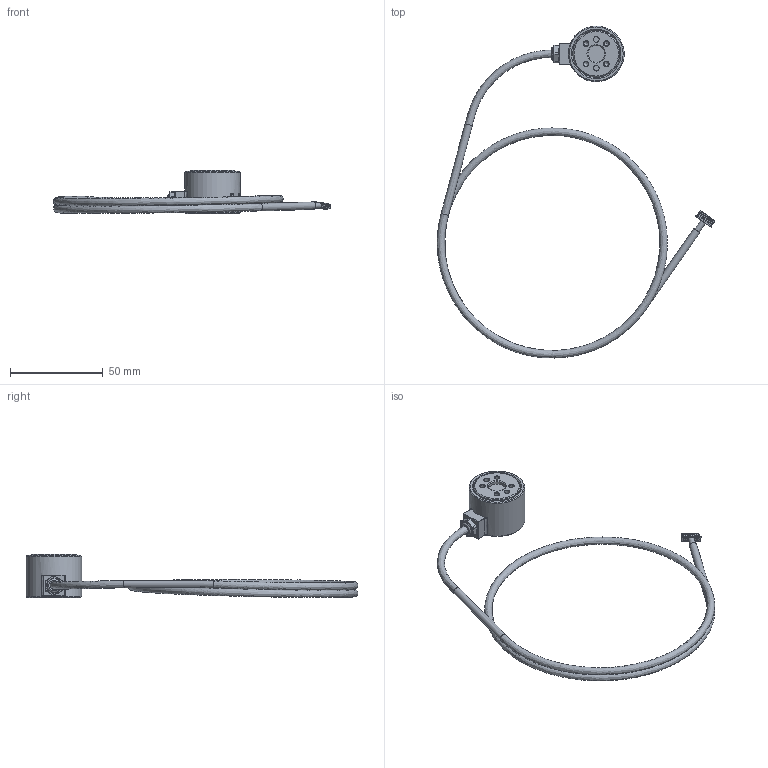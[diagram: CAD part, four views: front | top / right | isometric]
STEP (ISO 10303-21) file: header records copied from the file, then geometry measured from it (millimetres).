
FILE_DESCRIPTION (( 'STEP AP214' ), '1' );
FILE_NAME ('MiniONE Gen A UART 3D File.STEP', '2025-05-21T15:24:25', ( '' ), ( '' ), 'SwSTEP 2.0', 'SolidWorks 2022', '' );
FILE_SCHEMA (( 'AUTOMOTIVE_DESIGN' ));
Length unit declared in the file: millimetre
Products named in the file (50): FP-C0402-BB-MFG_CMP-2008-03079-2; QFN-32_5x5_P05_EPAD_3D65x3D65_AD7124-8_Sigma_Delta_ADC_8-Channel_24-Bit-1; RESC1005X40X25NL05T10_CMP-2002-06609-1; RigidPart_Layer Stack Region 1_Force_Sensor_Stud-V2; FP-RT0402-MFG_CMP-2002-02575-2; APA1606MGC_CMP-007-00044-2; MIN-A001_SENSING-ELEMENT; SOT323-5_MIC5253-3.3BC5_LDO-1; RigidPart_Layer Stack Region 7_Force_Sensor_Stud-V2; PAR-00009_PRT-ORING-23x1-NBR-50; MiniONE UART GEN-A CLAMP_MANUFACTURING; RESC1005X40X25LL10T10_CMP-2002-05747-1; CAPC0603X33X15LL03T05_CMP-2010-00183-1; DIN 912 M2.5 x 12 --- 12S-A2-70-NT_DIN 912 M2.5 x 12 --- 12S-A2-70-NT; MIN-P001_for 0.5mm extra sensing element; RESC1005X40X25LL05T05_CMP-2002-01154-4; ISO 8734 - 1 x 8 - C1-m6-S-HR_ISO 8734 - 1 x 8 - C1-m6-S-HR; FlexPart_Layer Stack Region 6_Force_Sensor_Stud-V2; RigidPart_Layer Stack Region 3_Force_Sensor_Stud-V2; MiniONE Gen A UART 3D File; MiniPad-v2_BOARD; PAR-00006_PRT-LIGHTPIPE-IP68; MEC-SCREW-M1.6-DIN_84_CMP-023-000002-6; FlexPart_Layer Stack Region 2_Force_Sensor_Stud-V2; QFN-32_5x5_P05_EPAD_3D65x3D65_ATSAMD21E18A-MU_Cortex_M0-1; MIN-A004_UART; FlexPart_Main Board to Board Flex_Force_Sensor_Stud-V2; RESC1005X40X25ML05T10_CMP-2002-07889-1; APA1606MGC_CMP-007-00039-2; BCM-000_SG-SHEAR-FB; FlexPart_Layer Stack Region 4_Force_Sensor_Stud-V2; Cable^MIN-A004_MiniONE UART; RigidPart_Default Layer Stack Region_Force_Sensor_Stud-V2; ISO-7045-M1.6x6-Z-6-A2-70-NT_PreviewCfg; FP-C1005-050-0_05-IPC_A_CMP-08246-006242-1; Oring MiniONE UART Gland_MANUFACTURING; RESC1005X40X25NL05T05_CMP-2002-00601-1; CAPC0603X33X15LL03T05_CMP-1033-00661-2; RESC0603X28X15NL05T05_CMP-2004-00629-1; BCM-001_SG-SHEAR-HB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
Assembly tree (14 placements, depth 3):
  FP-C0402-BB-MFG_CMP-2008-03079-2
  QFN-32_5x5_P05_EPAD_3D65x3D65_AD7124-8_Sigma_Delta_ADC_8-Channel_24-Bit-1
  RESC1005X40X25NL05T10_CMP-2002-06609-1
  RigidPart_Layer Stack Region 1_Force_Sensor_Stud-V2
  FP-RT0402-MFG_CMP-2002-02575-2
Bounding box: 149.54 x 178.95 x 23.2 mm (x, y, z)
Volume: 17668.9 mm3; surface area: 17572.3 mm2
Topology: 12 solids, 12 shells, 661 faces, 1631 edges, 1023 vertices
Faces by surface type: plane 473, cone 75, cylinder 73, bspline 26, torus 12, sphere 2
Full cylindrical faces by diameter (mm): 1.5 x4, 1.6 x2, 2.2 x4, 2.5 x7, 3 x5, 3.25 x1, 3.7 x1, 3.75 x1, 4 x1, 4.5 x3, 5 x1, 5.2 x3, 6.5 x1, 7 x3, 9 x1, 23.33 x1, 25 x2, 25.67 x1, 30 x1
Entity records: 22448 total; most frequent: CARTESIAN_POINT 6528, ORIENTED_EDGE 3004, DIRECTION 2978, EDGE_CURVE 1502, VECTOR 1104, LINE 1104, VERTEX_POINT 990, AXIS2_PLACEMENT_3D 937
